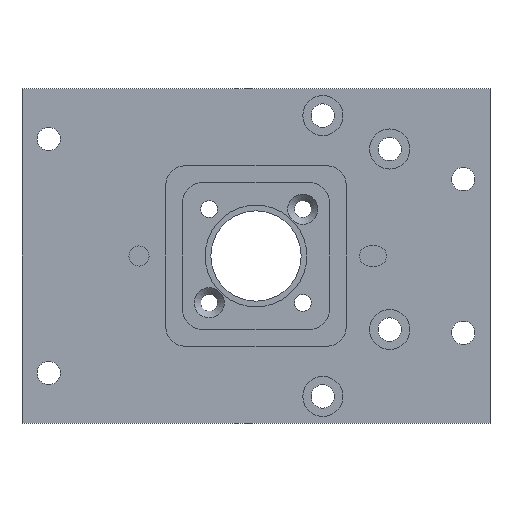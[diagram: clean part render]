
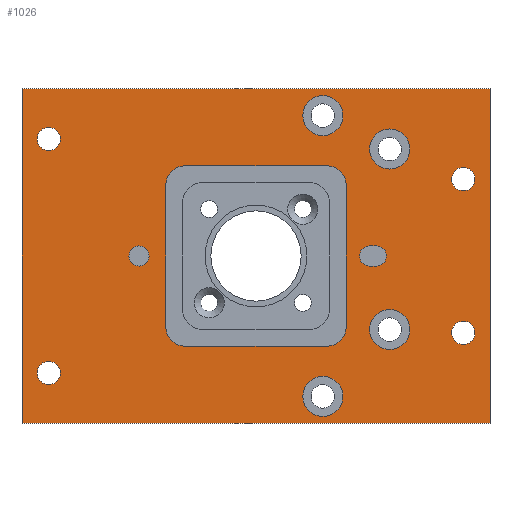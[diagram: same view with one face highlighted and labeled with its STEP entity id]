
A CAD part, front view. The second image highlights one B-rep face of the part: STEP entity #1026.
In plain terms, the highlighted planar face has unit normal (0, -1, 0).
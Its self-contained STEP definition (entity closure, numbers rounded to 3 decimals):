
#21=LINE('',#1538,#73);
#31=LINE('',#1574,#83);
#34=LINE('',#1582,#86);
#36=LINE('',#1588,#88);
#39=LINE('',#1606,#91);
#43=LINE('',#1617,#95);
#57=LINE('',#1737,#109);
#61=LINE('',#1745,#113);
#64=LINE('',#1751,#116);
#67=LINE('',#1756,#119);
#73=VECTOR('',#1231,21.);
#83=VECTOR('',#1263,21.);
#86=VECTOR('',#1272,21.);
#88=VECTOR('',#1280,21.);
#91=VECTOR('',#1299,1.);
#95=VECTOR('',#1311,1.);
#109=VECTOR('',#1457,50.);
#113=VECTOR('',#1463,70.);
#116=VECTOR('',#1468,50.);
#119=VECTOR('',#1473,70.);
#207=FACE_BOUND('',#399,.T.);
#208=FACE_BOUND('',#400,.T.);
#209=FACE_BOUND('',#401,.T.);
#210=FACE_BOUND('',#402,.T.);
#211=FACE_BOUND('',#403,.T.);
#212=FACE_BOUND('',#404,.T.);
#213=FACE_BOUND('',#405,.T.);
#214=FACE_BOUND('',#406,.T.);
#215=FACE_BOUND('',#407,.T.);
#216=FACE_BOUND('',#408,.T.);
#217=FACE_BOUND('',#409,.T.);
#281=FACE_OUTER_BOUND('',#398,.T.);
#398=EDGE_LOOP('',(#909,#910,#911,#912));
#399=EDGE_LOOP('',(#913));
#400=EDGE_LOOP('',(#914));
#401=EDGE_LOOP('',(#915));
#402=EDGE_LOOP('',(#916));
#403=EDGE_LOOP('',(#917,#918,#919,#920,#921,#922,#923,#924));
#404=EDGE_LOOP('',(#925));
#405=EDGE_LOOP('',(#926,#927,#928,#929));
#406=EDGE_LOOP('',(#930));
#407=EDGE_LOOP('',(#931));
#408=EDGE_LOOP('',(#932));
#409=EDGE_LOOP('',(#933));
#412=CIRCLE('',#1033,3.);
#416=CIRCLE('',#1040,3.);
#420=CIRCLE('',#1047,3.);
#424=CIRCLE('',#1054,3.);
#427=CIRCLE('',#1059,3.);
#435=CIRCLE('',#1070,3.);
#436=CIRCLE('',#1073,3.);
#437=CIRCLE('',#1076,3.);
#439=CIRCLE('',#1080,1.5);
#440=CIRCLE('',#1083,1.5);
#442=CIRCLE('',#1087,1.5);
#447=CIRCLE('',#1097,1.75);
#451=CIRCLE('',#1104,1.75);
#455=CIRCLE('',#1111,1.75);
#459=CIRCLE('',#1118,1.75);
#480=VERTEX_POINT('',#1486);
#484=VERTEX_POINT('',#1497);
#488=VERTEX_POINT('',#1508);
#492=VERTEX_POINT('',#1519);
#496=VERTEX_POINT('',#1528);
#497=VERTEX_POINT('',#1530);
#499=VERTEX_POINT('',#1536);
#513=VERTEX_POINT('',#1568);
#514=VERTEX_POINT('',#1572);
#515=VERTEX_POINT('',#1576);
#516=VERTEX_POINT('',#1580);
#517=VERTEX_POINT('',#1584);
#519=VERTEX_POINT('',#1592);
#520=VERTEX_POINT('',#1596);
#521=VERTEX_POINT('',#1597);
#524=VERTEX_POINT('',#1605);
#526=VERTEX_POINT('',#1611);
#531=VERTEX_POINT('',#1629);
#535=VERTEX_POINT('',#1640);
#539=VERTEX_POINT('',#1651);
#543=VERTEX_POINT('',#1662);
#566=VERTEX_POINT('',#1735);
#567=VERTEX_POINT('',#1736);
#570=VERTEX_POINT('',#1744);
#572=VERTEX_POINT('',#1750);
#576=EDGE_CURVE('',#480,#480,#412,.T.);
#580=EDGE_CURVE('',#484,#484,#416,.T.);
#584=EDGE_CURVE('',#488,#488,#420,.T.);
#588=EDGE_CURVE('',#492,#492,#424,.T.);
#592=EDGE_CURVE('',#496,#497,#427,.F.);
#596=EDGE_CURVE('',#496,#499,#21,.T.);
#612=EDGE_CURVE('',#513,#499,#435,.F.);
#614=EDGE_CURVE('',#513,#514,#31,.T.);
#616=EDGE_CURVE('',#515,#514,#436,.F.);
#618=EDGE_CURVE('',#515,#516,#34,.T.);
#620=EDGE_CURVE('',#517,#516,#437,.F.);
#621=EDGE_CURVE('',#517,#497,#36,.T.);
#623=EDGE_CURVE('',#519,#519,#439,.T.);
#624=EDGE_CURVE('',#520,#521,#440,.T.);
#628=EDGE_CURVE('',#524,#520,#39,.T.);
#631=EDGE_CURVE('',#526,#524,#442,.T.);
#634=EDGE_CURVE('',#521,#526,#43,.T.);
#639=EDGE_CURVE('',#531,#531,#447,.T.);
#643=EDGE_CURVE('',#535,#535,#451,.T.);
#647=EDGE_CURVE('',#539,#539,#455,.T.);
#651=EDGE_CURVE('',#543,#543,#459,.T.);
#682=EDGE_CURVE('',#566,#567,#57,.T.);
#686=EDGE_CURVE('',#570,#566,#61,.T.);
#689=EDGE_CURVE('',#572,#570,#64,.T.);
#692=EDGE_CURVE('',#567,#572,#67,.T.);
#909=ORIENTED_EDGE('',*,*,#689,.F.);
#910=ORIENTED_EDGE('',*,*,#692,.F.);
#911=ORIENTED_EDGE('',*,*,#682,.F.);
#912=ORIENTED_EDGE('',*,*,#686,.F.);
#913=ORIENTED_EDGE('',*,*,#576,.T.);
#914=ORIENTED_EDGE('',*,*,#580,.T.);
#915=ORIENTED_EDGE('',*,*,#584,.T.);
#916=ORIENTED_EDGE('',*,*,#588,.T.);
#917=ORIENTED_EDGE('',*,*,#596,.T.);
#918=ORIENTED_EDGE('',*,*,#612,.F.);
#919=ORIENTED_EDGE('',*,*,#614,.T.);
#920=ORIENTED_EDGE('',*,*,#616,.F.);
#921=ORIENTED_EDGE('',*,*,#618,.T.);
#922=ORIENTED_EDGE('',*,*,#620,.F.);
#923=ORIENTED_EDGE('',*,*,#621,.T.);
#924=ORIENTED_EDGE('',*,*,#592,.F.);
#925=ORIENTED_EDGE('',*,*,#623,.T.);
#926=ORIENTED_EDGE('',*,*,#624,.T.);
#927=ORIENTED_EDGE('',*,*,#634,.T.);
#928=ORIENTED_EDGE('',*,*,#631,.T.);
#929=ORIENTED_EDGE('',*,*,#628,.T.);
#930=ORIENTED_EDGE('',*,*,#639,.T.);
#931=ORIENTED_EDGE('',*,*,#643,.T.);
#932=ORIENTED_EDGE('',*,*,#647,.T.);
#933=ORIENTED_EDGE('',*,*,#651,.T.);
#962=PLANE('',#1160);
#1026=ADVANCED_FACE('',(#281,#207,#208,#209,#210,#211,#212,#213,#214,#215,
#216,#217),#962,.F.);
#1033=AXIS2_PLACEMENT_3D('',#1487,#1171,#1172);
#1040=AXIS2_PLACEMENT_3D('',#1498,#1185,#1186);
#1047=AXIS2_PLACEMENT_3D('',#1509,#1199,#1200);
#1054=AXIS2_PLACEMENT_3D('',#1520,#1213,#1214);
#1059=AXIS2_PLACEMENT_3D('',#1531,#1224,#1225);
#1070=AXIS2_PLACEMENT_3D('',#1570,#1258,#1259);
#1073=AXIS2_PLACEMENT_3D('',#1578,#1267,#1268);
#1076=AXIS2_PLACEMENT_3D('',#1586,#1276,#1277);
#1080=AXIS2_PLACEMENT_3D('',#1593,#1285,#1286);
#1083=AXIS2_PLACEMENT_3D('',#1598,#1291,#1292);
#1087=AXIS2_PLACEMENT_3D('',#1612,#1304,#1305);
#1097=AXIS2_PLACEMENT_3D('',#1630,#1327,#1328);
#1104=AXIS2_PLACEMENT_3D('',#1641,#1341,#1342);
#1111=AXIS2_PLACEMENT_3D('',#1652,#1355,#1356);
#1118=AXIS2_PLACEMENT_3D('',#1663,#1369,#1370);
#1160=AXIS2_PLACEMENT_3D('',#1759,#1477,#1478);
#1171=DIRECTION('center_axis',(0.,1.,0.));
#1172=DIRECTION('ref_axis',(1.,0.,0.));
#1185=DIRECTION('center_axis',(0.,1.,0.));
#1186=DIRECTION('ref_axis',(1.,0.,0.));
#1199=DIRECTION('center_axis',(0.,1.,0.));
#1200=DIRECTION('ref_axis',(1.,0.,0.));
#1213=DIRECTION('center_axis',(0.,1.,0.));
#1214=DIRECTION('ref_axis',(1.,0.,0.));
#1224=DIRECTION('center_axis',(0.,1.,0.));
#1225=DIRECTION('ref_axis',(-0.707,0.,0.707));
#1231=DIRECTION('',(1.,0.,0.));
#1258=DIRECTION('center_axis',(0.,1.,0.));
#1259=DIRECTION('ref_axis',(0.707,0.,0.707));
#1263=DIRECTION('',(0.,0.,-1.));
#1267=DIRECTION('center_axis',(0.,1.,0.));
#1268=DIRECTION('ref_axis',(0.707,0.,-0.707));
#1272=DIRECTION('',(-1.,0.,0.));
#1276=DIRECTION('center_axis',(0.,1.,0.));
#1277=DIRECTION('ref_axis',(-0.707,0.,-0.707));
#1280=DIRECTION('',(0.,0.,1.));
#1285=DIRECTION('center_axis',(0.,1.,0.));
#1286=DIRECTION('ref_axis',(-1.,0.,0.));
#1291=DIRECTION('center_axis',(0.,1.,0.));
#1292=DIRECTION('ref_axis',(0.,0.,-1.));
#1299=DIRECTION('',(-1.,0.,0.));
#1304=DIRECTION('center_axis',(0.,1.,0.));
#1305=DIRECTION('ref_axis',(0.,0.,1.));
#1311=DIRECTION('',(1.,0.,0.));
#1327=DIRECTION('center_axis',(0.,1.,0.));
#1328=DIRECTION('ref_axis',(1.,0.,0.));
#1341=DIRECTION('center_axis',(0.,1.,0.));
#1342=DIRECTION('ref_axis',(1.,0.,0.));
#1355=DIRECTION('center_axis',(0.,1.,0.));
#1356=DIRECTION('ref_axis',(1.,0.,0.));
#1369=DIRECTION('center_axis',(0.,1.,0.));
#1370=DIRECTION('ref_axis',(1.,0.,0.));
#1457=DIRECTION('',(0.,0.,-1.));
#1463=DIRECTION('',(1.,0.,0.));
#1468=DIRECTION('',(0.,0.,1.));
#1473=DIRECTION('',(-1.,0.,0.));
#1477=DIRECTION('center_axis',(0.,1.,0.));
#1478=DIRECTION('ref_axis',(0.,0.,1.));
#1486=CARTESIAN_POINT('',(13.,0.,-21.));
#1487=CARTESIAN_POINT('Origin',(10.,0.,-21.));
#1497=CARTESIAN_POINT('',(13.,0.,21.));
#1498=CARTESIAN_POINT('Origin',(10.,0.,21.));
#1508=CARTESIAN_POINT('',(23.,0.,-11.));
#1509=CARTESIAN_POINT('Origin',(20.,0.,-11.));
#1519=CARTESIAN_POINT('',(23.,0.,16.));
#1520=CARTESIAN_POINT('Origin',(20.,0.,16.));
#1528=CARTESIAN_POINT('',(-10.5,0.,13.5));
#1530=CARTESIAN_POINT('',(-13.5,0.,10.5));
#1531=CARTESIAN_POINT('Origin',(-10.5,0.,10.5));
#1536=CARTESIAN_POINT('',(10.5,0.,13.5));
#1538=CARTESIAN_POINT('',(2.503,0.,13.5));
#1568=CARTESIAN_POINT('',(13.5,0.,10.5));
#1570=CARTESIAN_POINT('Origin',(10.5,0.,10.5));
#1572=CARTESIAN_POINT('',(13.5,0.,-10.5));
#1574=CARTESIAN_POINT('',(13.5,0.,-10.997));
#1576=CARTESIAN_POINT('',(10.5,0.,-13.5));
#1578=CARTESIAN_POINT('Origin',(10.5,0.,-10.5));
#1580=CARTESIAN_POINT('',(-10.5,0.,-13.5));
#1582=CARTESIAN_POINT('',(-10.997,0.,-13.5));
#1584=CARTESIAN_POINT('',(-13.5,0.,-10.5));
#1586=CARTESIAN_POINT('Origin',(-10.5,0.,-10.5));
#1588=CARTESIAN_POINT('',(-13.5,0.,2.503));
#1592=CARTESIAN_POINT('',(-16.,0.,0.));
#1593=CARTESIAN_POINT('Origin',(-17.5,0.,0.));
#1596=CARTESIAN_POINT('',(17.,0.,-1.5));
#1597=CARTESIAN_POINT('',(17.,0.,1.5));
#1598=CARTESIAN_POINT('Origin',(17.,0.,0.));
#1605=CARTESIAN_POINT('',(18.,0.,-1.5));
#1606=CARTESIAN_POINT('',(4.753,0.,-1.5));
#1611=CARTESIAN_POINT('',(18.,0.,1.5));
#1612=CARTESIAN_POINT('Origin',(18.,0.,0.));
#1617=CARTESIAN_POINT('',(4.253,0.,1.5));
#1629=CARTESIAN_POINT('',(29.25,0.,-11.5));
#1630=CARTESIAN_POINT('Origin',(31.,0.,-11.5));
#1640=CARTESIAN_POINT('',(-32.75,0.,-17.5));
#1641=CARTESIAN_POINT('Origin',(-31.,0.,-17.5));
#1651=CARTESIAN_POINT('',(-32.75,0.,17.5));
#1652=CARTESIAN_POINT('Origin',(-31.,0.,17.5));
#1662=CARTESIAN_POINT('',(29.25,0.,11.5));
#1663=CARTESIAN_POINT('Origin',(31.,0.,11.5));
#1735=CARTESIAN_POINT('',(35.,0.,25.));
#1736=CARTESIAN_POINT('',(35.,0.,-25.));
#1737=CARTESIAN_POINT('',(35.,0.,25.));
#1744=CARTESIAN_POINT('',(-35.,0.,25.));
#1745=CARTESIAN_POINT('',(-35.,0.,25.));
#1750=CARTESIAN_POINT('',(-35.,0.,-25.));
#1751=CARTESIAN_POINT('',(-35.,0.,-25.));
#1756=CARTESIAN_POINT('',(35.,0.,-25.));
#1759=CARTESIAN_POINT('Origin',(-8.494,0.,-8.494));
